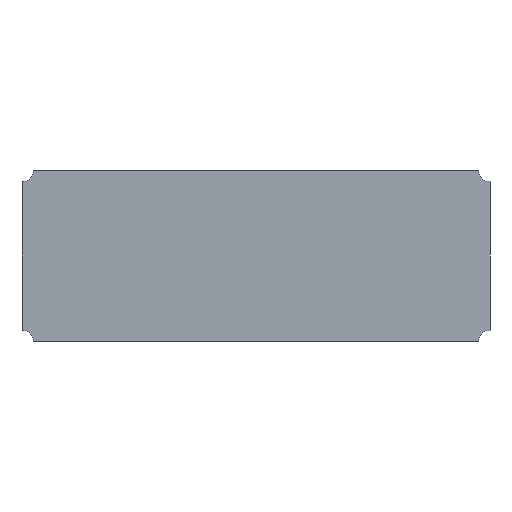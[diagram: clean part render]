
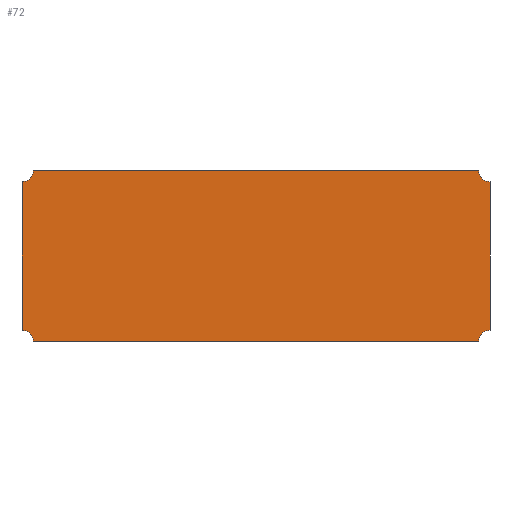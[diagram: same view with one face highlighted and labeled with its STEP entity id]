
A CAD part, front view. The second image highlights one B-rep face of the part: STEP entity #72.
In plain terms, the highlighted planar face has unit normal (0, -1, 0).
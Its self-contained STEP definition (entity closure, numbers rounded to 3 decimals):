
#72=ADVANCED_FACE('NONE',(#121),#122,.F.);
#121=FACE_OUTER_BOUND('',#174,.T.);
#122=PLANE('',#175);
#174=EDGE_LOOP('',(#336,#337,#338,#339,#340,#341,#342,#343));
#175=AXIS2_PLACEMENT_3D('',#344,#345,#346);
#336=ORIENTED_EDGE('',*,*,#426,.F.);
#337=ORIENTED_EDGE('',*,*,#476,.F.);
#338=ORIENTED_EDGE('',*,*,#446,.F.);
#339=ORIENTED_EDGE('',*,*,#477,.T.);
#340=ORIENTED_EDGE('',*,*,#463,.F.);
#341=ORIENTED_EDGE('',*,*,#478,.F.);
#342=ORIENTED_EDGE('',*,*,#439,.F.);
#343=ORIENTED_EDGE('',*,*,#479,.T.);
#344=CARTESIAN_POINT('',(0.0,0.0,0.0));
#345=DIRECTION('',(-0.0,1.0,0.0));
#346=DIRECTION('',(1.0,0.0,0.0));
#426=EDGE_CURVE('NONE',#515,#517,#518,.T.);
#439=EDGE_CURVE('NONE',#538,#540,#541,.T.);
#446=EDGE_CURVE('NONE',#550,#551,#552,.T.);
#463=EDGE_CURVE('NONE',#581,#576,#583,.T.);
#476=EDGE_CURVE('NONE',#551,#515,#596,.T.);
#477=EDGE_CURVE('NONE',#550,#576,#597,.T.);
#478=EDGE_CURVE('NONE',#540,#581,#598,.T.);
#479=EDGE_CURVE('NONE',#538,#517,#599,.T.);
#515=VERTEX_POINT('NONE',#644);
#517=VERTEX_POINT('NONE',#647);
#518=LINE('',#648,#649);
#538=VERTEX_POINT('NONE',#680);
#540=VERTEX_POINT('NONE',#683);
#541=LINE('',#684,#685);
#550=VERTEX_POINT('NONE',#700);
#551=VERTEX_POINT('NONE',#701);
#552=LINE('',#702,#703);
#576=VERTEX_POINT('NONE',#740);
#581=VERTEX_POINT('NONE',#747);
#583=LINE('',#750,#751);
#596=CIRCLE('',#764,0.1);
#597=CIRCLE('',#765,0.1);
#598=CIRCLE('',#766,0.1);
#599=CIRCLE('',#767,0.1);
#644=CARTESIAN_POINT('',(2.05,0.0,0.65));
#647=CARTESIAN_POINT('',(2.05,0.0,-0.65));
#648=CARTESIAN_POINT('',(2.05,0.0,-0.75));
#649=VECTOR('',#802,1000.0);
#680=CARTESIAN_POINT('',(1.95,0.0,-0.75));
#683=CARTESIAN_POINT('',(-1.95,0.0,-0.75));
#684=CARTESIAN_POINT('',(-2.05,0.0,-0.75));
#685=VECTOR('',#815,1000.0);
#700=CARTESIAN_POINT('',(-1.95,0.0,0.75));
#701=CARTESIAN_POINT('',(1.95,0.0,0.75));
#702=CARTESIAN_POINT('',(-2.05,0.0,0.75));
#703=VECTOR('',#822,1000.0);
#740=CARTESIAN_POINT('',(-2.05,0.0,0.65));
#747=CARTESIAN_POINT('',(-2.05,0.0,-0.65));
#750=CARTESIAN_POINT('',(-2.05,0.0,-0.75));
#751=VECTOR('',#839,1000.0);
#764=AXIS2_PLACEMENT_3D('',#876,#877,#878);
#765=AXIS2_PLACEMENT_3D('',#879,#880,#881);
#766=AXIS2_PLACEMENT_3D('',#882,#883,#884);
#767=AXIS2_PLACEMENT_3D('',#885,#886,#887);
#802=DIRECTION('',(-0.0,-0.0,-1.0));
#815=DIRECTION('',(-1.0,-0.0,-0.0));
#822=DIRECTION('',(1.0,0.0,0.0));
#839=DIRECTION('',(0.0,0.0,1.0));
#876=CARTESIAN_POINT('',(2.05,0.0,0.75));
#877=DIRECTION('',(0.0,-1.0,0.0));
#878=DIRECTION('',(0.0,0.0,1.0));
#879=CARTESIAN_POINT('',(-2.05,0.0,0.75));
#880=DIRECTION('',(0.0,1.0,0.0));
#881=DIRECTION('',(0.0,0.0,1.0));
#882=CARTESIAN_POINT('',(-2.05,0.0,-0.75));
#883=DIRECTION('',(0.0,-1.0,0.0));
#884=DIRECTION('',(0.0,0.0,1.0));
#885=CARTESIAN_POINT('',(2.05,0.0,-0.75));
#886=DIRECTION('',(0.0,1.0,0.0));
#887=DIRECTION('',(0.0,0.0,1.0));
